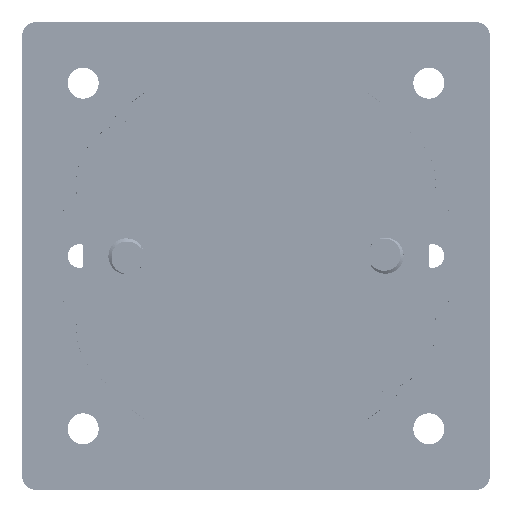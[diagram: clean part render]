
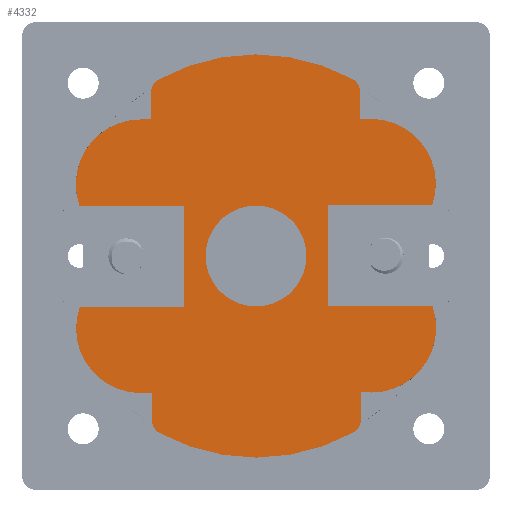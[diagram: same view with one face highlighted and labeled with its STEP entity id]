
A CAD part, front view. The second image highlights one B-rep face of the part: STEP entity #4332.
In plain terms, the highlighted planar face has unit normal (0, -1, 0).
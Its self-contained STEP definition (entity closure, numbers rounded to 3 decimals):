
#4332=ADVANCED_FACE('',(#12574,#12575),#6124,.F.);
#6124=PLANE('',#37363);
#7345=LINE('',#50294,#9990);
#7351=LINE('',#50316,#9996);
#7431=LINE('',#50485,#10076);
#7436=LINE('',#50506,#10081);
#7660=LINE('',#60823,#10305);
#7662=LINE('',#60827,#10307);
#7668=LINE('',#60857,#10313);
#7669=LINE('',#60881,#10314);
#7822=LINE('',#89269,#10467);
#7827=LINE('',#89279,#10472);
#7828=LINE('',#89281,#10473);
#7830=LINE('',#89285,#10475);
#7835=LINE('',#89295,#10480);
#7836=LINE('',#89297,#10481);
#9990=VECTOR('',#40800,1.);
#9996=VECTOR('',#40826,1.);
#10076=VECTOR('',#40916,1.);
#10081=VECTOR('',#40941,1.);
#10305=VECTOR('',#41665,1.);
#10307=VECTOR('',#41669,1.);
#10313=VECTOR('',#41691,1.);
#10314=VECTOR('',#41698,1.);
#10467=VECTOR('',#42005,1.);
#10472=VECTOR('',#42012,1.);
#10473=VECTOR('',#42015,1.);
#10475=VECTOR('',#42021,1.);
#10480=VECTOR('',#42028,1.);
#10481=VECTOR('',#42031,1.);
#12574=FACE_BOUND('',#13530,.T.);
#12575=FACE_BOUND('',#13531,.T.);
#13530=EDGE_LOOP('',(#17694,#17695,#17696,#17697,#17698,#17699,#17700,#17701,
#17702,#17703,#17704,#17705,#17706,#17707,#17708,#17709,#17710,#17711,#17712,
#17713,#17714,#17715,#17716,#17717,#17718));
#13531=EDGE_LOOP('',(#17719));
#17694=ORIENTED_EDGE('',*,*,#31217,.F.);
#17695=ORIENTED_EDGE('',*,*,#30778,.T.);
#17696=ORIENTED_EDGE('',*,*,#30781,.T.);
#17697=ORIENTED_EDGE('',*,*,#30341,.T.);
#17698=ORIENTED_EDGE('',*,*,#30339,.T.);
#17699=ORIENTED_EDGE('',*,*,#30336,.T.);
#17700=ORIENTED_EDGE('',*,*,#30333,.T.);
#17701=ORIENTED_EDGE('',*,*,#30330,.T.);
#17702=ORIENTED_EDGE('',*,*,#30784,.T.);
#17703=ORIENTED_EDGE('',*,*,#30787,.T.);
#17704=ORIENTED_EDGE('',*,*,#30790,.T.);
#17705=ORIENTED_EDGE('',*,*,#31224,.F.);
#17706=ORIENTED_EDGE('',*,*,#31219,.F.);
#17707=ORIENTED_EDGE('',*,*,#31225,.F.);
#17708=ORIENTED_EDGE('',*,*,#30764,.T.);
#17709=ORIENTED_EDGE('',*,*,#30767,.T.);
#17710=ORIENTED_EDGE('',*,*,#30247,.T.);
#17711=ORIENTED_EDGE('',*,*,#30245,.T.);
#17712=ORIENTED_EDGE('',*,*,#30242,.T.);
#17713=ORIENTED_EDGE('',*,*,#30239,.T.);
#17714=ORIENTED_EDGE('',*,*,#30235,.T.);
#17715=ORIENTED_EDGE('',*,*,#30769,.T.);
#17716=ORIENTED_EDGE('',*,*,#30773,.T.);
#17717=ORIENTED_EDGE('',*,*,#31216,.F.);
#17718=ORIENTED_EDGE('',*,*,#31211,.F.);
#17719=ORIENTED_EDGE('',*,*,#31210,.F.);
#26541=VERTEX_POINT('',#50293);
#26542=VERTEX_POINT('',#50295);
#26544=VERTEX_POINT('',#50302);
#26546=VERTEX_POINT('',#50308);
#26547=VERTEX_POINT('',#50313);
#26548=VERTEX_POINT('',#50317);
#26623=VERTEX_POINT('',#50484);
#26624=VERTEX_POINT('',#50486);
#26626=VERTEX_POINT('',#50492);
#26628=VERTEX_POINT('',#50498);
#26629=VERTEX_POINT('',#50503);
#26630=VERTEX_POINT('',#50507);
#26910=VERTEX_POINT('',#60816);
#26911=VERTEX_POINT('',#60818);
#26913=VERTEX_POINT('',#60826);
#26916=VERTEX_POINT('',#60834);
#26919=VERTEX_POINT('',#60850);
#26920=VERTEX_POINT('',#60852);
#26923=VERTEX_POINT('',#60868);
#26925=VERTEX_POINT('',#60880);
#26927=VERTEX_POINT('',#60886);
#27215=VERTEX_POINT('',#89267);
#27216=VERTEX_POINT('',#89270);
#27217=VERTEX_POINT('',#89271);
#27220=VERTEX_POINT('',#89286);
#27221=VERTEX_POINT('',#89287);
#30235=EDGE_CURVE('',#26542,#26541,#7345,.T.);
#30239=EDGE_CURVE('',#26544,#26542,#35428,.T.);
#30242=EDGE_CURVE('',#26546,#26544,#35430,.T.);
#30245=EDGE_CURVE('',#26547,#26546,#35432,.T.);
#30247=EDGE_CURVE('',#26548,#26547,#7351,.T.);
#30330=EDGE_CURVE('',#26624,#26623,#7431,.T.);
#30333=EDGE_CURVE('',#26626,#26624,#35435,.T.);
#30336=EDGE_CURVE('',#26628,#26626,#35437,.T.);
#30339=EDGE_CURVE('',#26629,#26628,#35439,.T.);
#30341=EDGE_CURVE('',#26630,#26629,#7436,.T.);
#30764=EDGE_CURVE('',#26911,#26910,#35549,.T.);
#30767=EDGE_CURVE('',#26910,#26548,#7660,.T.);
#30769=EDGE_CURVE('',#26541,#26913,#7662,.T.);
#30773=EDGE_CURVE('',#26913,#26916,#35552,.T.);
#30778=EDGE_CURVE('',#26920,#26919,#35553,.T.);
#30781=EDGE_CURVE('',#26919,#26630,#7668,.T.);
#30784=EDGE_CURVE('',#26623,#26923,#35555,.T.);
#30787=EDGE_CURVE('',#26923,#26925,#7669,.T.);
#30790=EDGE_CURVE('',#26925,#26927,#35557,.T.);
#31210=EDGE_CURVE('',#27215,#27215,#35577,.T.);
#31211=EDGE_CURVE('',#27216,#27217,#7822,.T.);
#31216=EDGE_CURVE('',#27217,#26916,#7827,.T.);
#31217=EDGE_CURVE('',#26920,#27216,#7828,.T.);
#31219=EDGE_CURVE('',#27220,#27221,#7830,.T.);
#31224=EDGE_CURVE('',#27221,#26927,#7835,.T.);
#31225=EDGE_CURVE('',#26911,#27220,#7836,.T.);
#35428=CIRCLE('',#36993,2.);
#35430=CIRCLE('',#36996,28.);
#35432=CIRCLE('',#36999,2.);
#35435=CIRCLE('',#37008,2.);
#35437=CIRCLE('',#37011,28.);
#35439=CIRCLE('',#37014,2.);
#35549=CIRCLE('',#37263,9.);
#35552=CIRCLE('',#37269,9.);
#35553=CIRCLE('',#37272,9.);
#35555=CIRCLE('',#37276,8.96);
#35557=CIRCLE('',#37280,9.);
#35577=CIRCLE('',#37353,7.);
#36993=AXIS2_PLACEMENT_3D('',#50301,#40807,#40808);
#36996=AXIS2_PLACEMENT_3D('',#50307,#40814,#40815);
#36999=AXIS2_PLACEMENT_3D('',#50312,#40821,#40822);
#37008=AXIS2_PLACEMENT_3D('',#50491,#40922,#40923);
#37011=AXIS2_PLACEMENT_3D('',#50497,#40929,#40930);
#37014=AXIS2_PLACEMENT_3D('',#50502,#40936,#40937);
#37263=AXIS2_PLACEMENT_3D('',#60817,#41658,#41659);
#37269=AXIS2_PLACEMENT_3D('',#60835,#41676,#41677);
#37272=AXIS2_PLACEMENT_3D('',#60851,#41684,#41685);
#37276=AXIS2_PLACEMENT_3D('',#60869,#41694,#41695);
#37280=AXIS2_PLACEMENT_3D('',#60887,#41704,#41705);
#37353=AXIS2_PLACEMENT_3D('',#89266,#42001,#42002);
#37363=AXIS2_PLACEMENT_3D('',#89301,#42037,#42038);
#40800=DIRECTION('',(0.003,0.,-1.));
#40807=DIRECTION('',(0.,-1.,0.));
#40808=DIRECTION('',(1.,0.,0.003));
#40814=DIRECTION('',(0.,-1.,0.));
#40815=DIRECTION('',(1.,0.,0.003));
#40821=DIRECTION('',(0.,-1.,0.));
#40822=DIRECTION('',(1.,0.,0.003));
#40826=DIRECTION('',(-0.003,0.,1.));
#40916=DIRECTION('',(-0.003,0.,1.));
#40922=DIRECTION('',(0.,-1.,0.));
#40923=DIRECTION('',(1.,0.,0.003));
#40929=DIRECTION('',(0.,-1.,0.));
#40930=DIRECTION('',(1.,0.,0.003));
#40936=DIRECTION('',(0.,-1.,0.));
#40937=DIRECTION('',(1.,0.,0.003));
#40941=DIRECTION('',(0.003,0.,-1.));
#41658=DIRECTION('',(0.,-1.,0.));
#41659=DIRECTION('',(1.,0.,0.003));
#41665=DIRECTION('',(-1.,0.,-0.003));
#41669=DIRECTION('',(-1.,0.,-0.003));
#41676=DIRECTION('',(0.,-1.,0.));
#41677=DIRECTION('',(-1.,0.,-0.003));
#41684=DIRECTION('',(0.,-1.,0.));
#41685=DIRECTION('',(-0.89,0.,0.456));
#41691=DIRECTION('',(1.,0.,0.003));
#41694=DIRECTION('',(0.,-1.,0.));
#41695=DIRECTION('',(0.,0.,-1.));
#41698=DIRECTION('',(1.,0.,0.003));
#41704=DIRECTION('',(0.,-1.,0.));
#41705=DIRECTION('',(0.,0.,-1.));
#42001=DIRECTION('',(0.,-1.,0.));
#42002=DIRECTION('',(-1.,0.,-0.003));
#42005=DIRECTION('',(-0.003,0.,1.));
#42012=DIRECTION('',(-1.,0.,-0.003));
#42015=DIRECTION('',(1.,0.,0.003));
#42021=DIRECTION('',(0.003,0.,-1.));
#42028=DIRECTION('',(1.,0.,0.003));
#42031=DIRECTION('',(-1.,0.,-0.003));
#42037=DIRECTION('',(0.,1.,0.));
#42038=DIRECTION('',(0.,0.,1.));
#50293=CARTESIAN_POINT('',(-14.549,-162.1,18.963));
#50294=CARTESIAN_POINT('',(-14.558,-162.1,22.761));
#50295=CARTESIAN_POINT('',(-14.558,-162.1,22.761));
#50301=CARTESIAN_POINT('',(-12.558,-162.1,22.766));
#50302=CARTESIAN_POINT('',(-13.525,-162.1,24.517));
#50307=CARTESIAN_POINT('',(0.,-162.1,0.));
#50308=CARTESIAN_POINT('',(13.398,-162.1,24.586));
#50312=CARTESIAN_POINT('',(12.441,-162.1,22.83));
#50313=CARTESIAN_POINT('',(14.441,-162.1,22.835));
#50316=CARTESIAN_POINT('',(14.451,-162.1,19.037));
#50317=CARTESIAN_POINT('',(14.451,-162.1,19.037));
#50484=CARTESIAN_POINT('',(14.548,-162.1,-18.837));
#50485=CARTESIAN_POINT('',(14.558,-162.1,-22.761));
#50486=CARTESIAN_POINT('',(14.558,-162.1,-22.761));
#50491=CARTESIAN_POINT('',(12.558,-162.1,-22.766));
#50492=CARTESIAN_POINT('',(13.525,-162.1,-24.517));
#50497=CARTESIAN_POINT('',(0.,-162.1,0.));
#50498=CARTESIAN_POINT('',(-13.398,-162.1,-24.586));
#50502=CARTESIAN_POINT('',(-12.441,-162.1,-22.83));
#50503=CARTESIAN_POINT('',(-14.441,-162.1,-22.835));
#50506=CARTESIAN_POINT('',(-14.451,-162.1,-19.037));
#50507=CARTESIAN_POINT('',(-14.451,-162.1,-19.037));
#60816=CARTESIAN_POINT('',(15.951,-162.1,19.041));
#60817=CARTESIAN_POINT('',(15.974,-162.1,10.041));
#60818=CARTESIAN_POINT('',(24.467,-162.1,7.063));
#60823=CARTESIAN_POINT('',(15.951,-162.1,19.041));
#60826=CARTESIAN_POINT('',(-16.049,-162.1,18.959));
#60827=CARTESIAN_POINT('',(-14.549,-162.1,18.963));
#60834=CARTESIAN_POINT('',(-24.503,-162.1,6.937));
#60835=CARTESIAN_POINT('',(-16.026,-162.1,9.959));
#60850=CARTESIAN_POINT('',(-15.951,-162.1,-19.041));
#60851=CARTESIAN_POINT('',(-15.974,-162.1,-10.041));
#60852=CARTESIAN_POINT('',(-24.468,-162.1,-7.063));
#60857=CARTESIAN_POINT('',(23.753,-162.1,-18.934));
#60868=CARTESIAN_POINT('',(15.978,-162.1,-18.959));
#60869=CARTESIAN_POINT('',(16.02,-162.1,-9.999));
#60880=CARTESIAN_POINT('',(16.119,-162.1,-18.958));
#60881=CARTESIAN_POINT('',(23.752,-162.1,-18.938));
#60886=CARTESIAN_POINT('',(24.503,-162.1,-6.937));
#60887=CARTESIAN_POINT('',(16.026,-162.1,-9.959));
#89266=CARTESIAN_POINT('',(0.,-162.1,0.));
#89267=CARTESIAN_POINT('',(-7.,-162.1,-0.018));
#89269=CARTESIAN_POINT('',(-9.982,-162.1,-7.026));
#89270=CARTESIAN_POINT('',(-9.982,-162.1,-7.026));
#89271=CARTESIAN_POINT('',(-10.018,-162.1,6.974));
#89279=CARTESIAN_POINT('',(-10.018,-162.1,6.974));
#89281=CARTESIAN_POINT('',(-34.164,-162.1,-7.088));
#89285=CARTESIAN_POINT('',(9.982,-162.1,7.026));
#89286=CARTESIAN_POINT('',(9.982,-162.1,7.026));
#89287=CARTESIAN_POINT('',(10.018,-162.1,-6.974));
#89295=CARTESIAN_POINT('',(10.018,-162.1,-6.974));
#89297=CARTESIAN_POINT('',(34.164,-162.1,7.088));
#89301=CARTESIAN_POINT('',(23.741,-162.1,-14.593));
